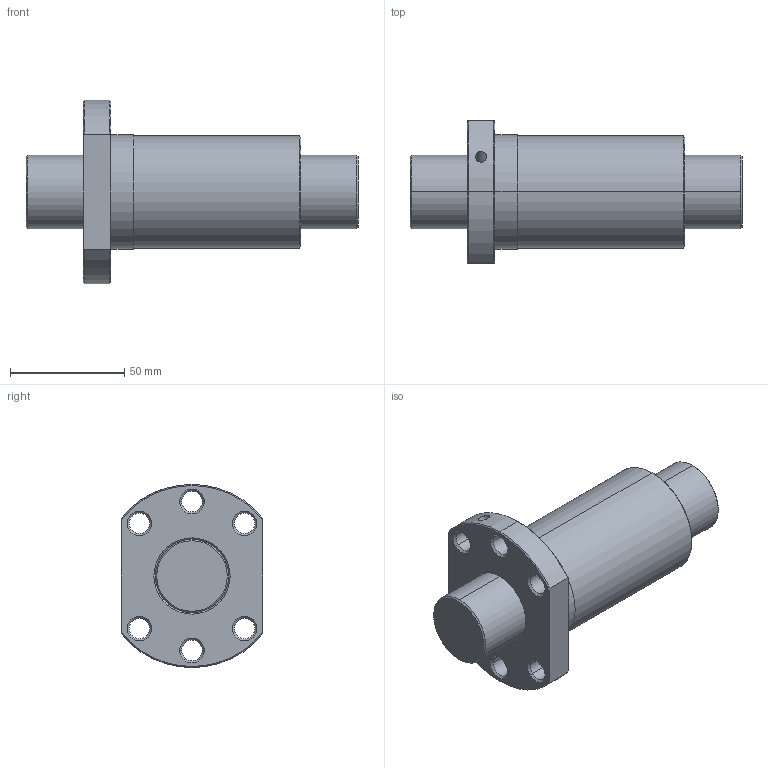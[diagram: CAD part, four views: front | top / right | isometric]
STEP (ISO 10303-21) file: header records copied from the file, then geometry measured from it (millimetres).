
FILE_DESCRIPTION(('no description'),'unknown implementation level');
FILE_NAME('R32_05T5_DDB_145_145_0_023_56.stp',' ',('HIWIN GmbH'),('CADClick - KiM GmbH - www.kimweb.de'),'unknown preprocess','ACIS','unknown authorization');
FILE_SCHEMA(('CONFIG_CONTROL_DESIGN'));
Length unit declared in the file: millimetre
Products named in the file (2): 1; 2
Bounding box: 145 x 62 x 80 mm (x, y, z)
Volume: 245200.9 mm3; surface area: 49728.4 mm2
Topology: 2 solids, 2 shells, 78 faces, 176 edges, 103 vertices
Faces by surface type: cone 44, cylinder 26, plane 8
Entity records: 2329 total; most frequent: CARTESIAN_POINT 440, DIRECTION 416, ORIENTED_EDGE 348, EDGE_CURVE 174, AXIS2_PLACEMENT_3D 172, VERTEX_POINT 103, EDGE_LOOP 95, CIRCLE 92
